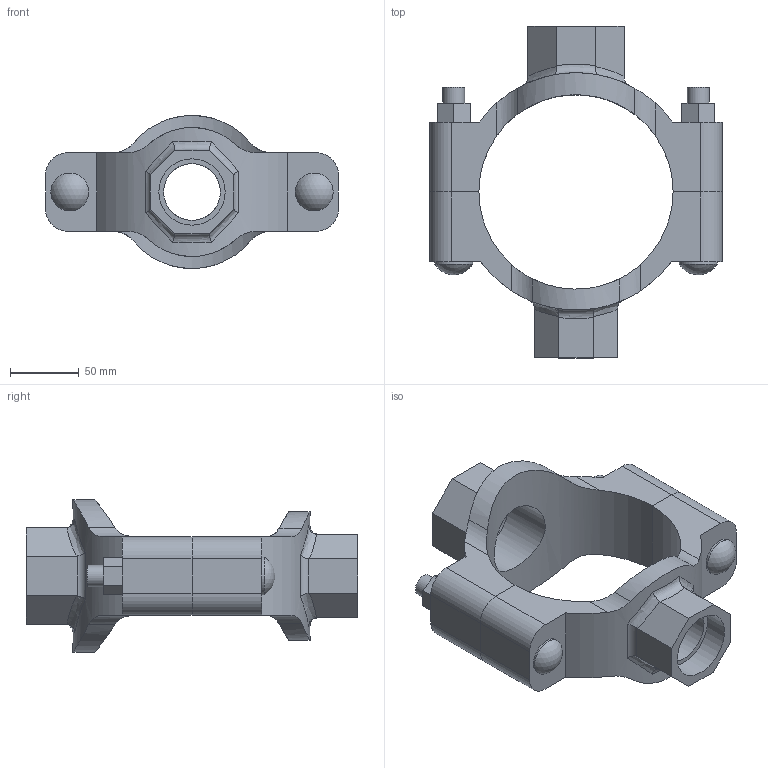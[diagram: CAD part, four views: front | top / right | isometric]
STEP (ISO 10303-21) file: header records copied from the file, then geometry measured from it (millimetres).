
FILE_DESCRIPTION(/* description */ ('VIC MECH-T BRANCH OUTLET CROSS STYLE 920N (THD)','CAx-IF Rec.Pracs.---Representation and Presentation of Product Manufacturing Information (PMI)---4.0---2014-10-13'),/* implementation_level */ '2;1');
FILE_NAME(/* name */ 'C:\Users\Vjadhav\AppData\Roaming\Autodesk\ApplicationPlugins\Back Up\Victaulic_IPS_Mechanical-Cross Outlet_Style 920N (FPT)\Victaulic_IPS_Mechanical-Cross Outlet_05.0x02.0x01.5 (125x50x40).stp',/* time_stamp */ '2020-08-06T18:59:03+05:00',/* author */ ('Vjadhav'),/* organization */ ('Victaulic'),/* preprocessor_version */ 'ST-DEVELOPER v17.2',/* originating_system */ 'Autodesk Inventor 2019',/* authorisation */ '');
FILE_SCHEMA (('AP242_MANAGED_MODEL_BASED_3D_ENGINEERING_MIM_LF { 1 0 10303 442 1 1 4 }'));
Length unit declared in the file: inch
Products named in the file (3): 920NT-05.0x02.0x01.5; 920T-05.0x02.0; 920T-05.0x01.5
Assembly tree (2 placements, depth 2):
  920NT-05.0x02.0x01.5
    920T-05.0x02.0
    920T-05.0x01.5
Bounding box: 212.85 x 241.3 x 111.25 mm (x, y, z)
Volume: 863084.5 mm3; surface area: 159017 mm2
Topology: 2 solids, 2 shells, 128 faces, 338 edges, 228 vertices
Faces by surface type: plane 68, cylinder 46, bspline 8, torus 4, sphere 2
Full cylindrical faces by diameter (mm): 15.875 x4, 27.496 x2, 41.275 x1, 48.26 x1, 52.387 x1, 60.325 x1
Entity records: 5056 total; most frequent: CARTESIAN_POINT 1651, ORIENTED_EDGE 676, DIRECTION 628, EDGE_CURVE 338, VERTEX_POINT 228, AXIS2_PLACEMENT_3D 223, LINE 182, VECTOR 182
